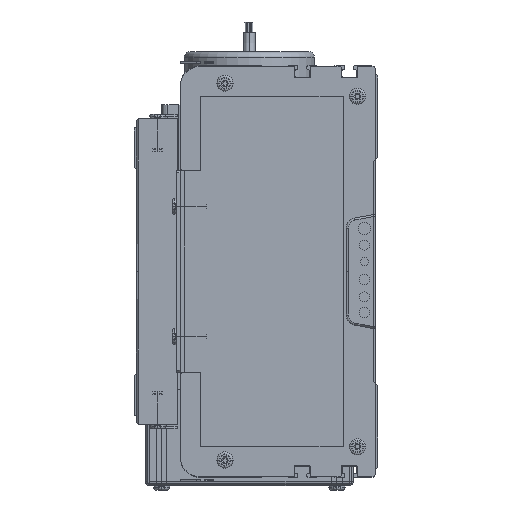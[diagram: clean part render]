
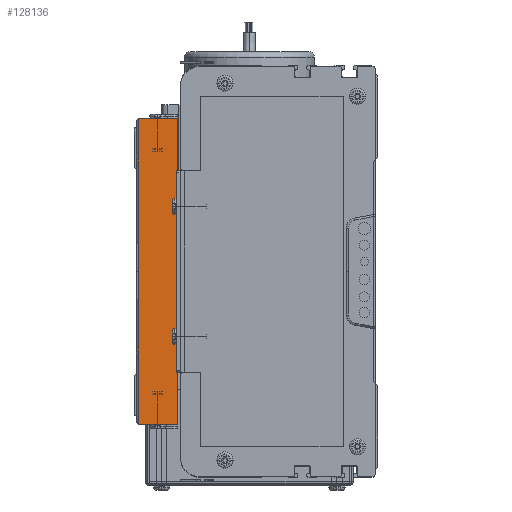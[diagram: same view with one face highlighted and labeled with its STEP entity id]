
A CAD part, left-side view. The second image highlights one B-rep face of the part: STEP entity #128136.
In plain terms, the highlighted planar face has unit normal (-1, 0, 0).
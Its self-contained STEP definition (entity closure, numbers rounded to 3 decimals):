
#127627 = EDGE_CURVE ( 'NONE', #127868, #128277, #130351, .T. ) ;
#127868 = VERTEX_POINT ( 'NONE', #130710 ) ;
#128133 = ORIENTED_EDGE ( 'NONE', *, *, #128453, .T. ) ;
#128136 = ADVANCED_FACE ( 'NONE', ( #130925 ), #130937, .F. ) ;
#128140 = ORIENTED_EDGE ( 'NONE', *, *, #128158, .F. ) ;
#128141 = VERTEX_POINT ( 'NONE', #130917 ) ;
#128158 = EDGE_CURVE ( 'NONE', #128302, #128277, #130996, .T. ) ;
#128277 = VERTEX_POINT ( 'NONE', #131124 ) ;
#128302 = VERTEX_POINT ( 'NONE', #131036 ) ;
#128313 = ORIENTED_EDGE ( 'NONE', *, *, #127627, .T. ) ;
#128315 = ORIENTED_EDGE ( 'NONE', *, *, #128735, .T. ) ;
#128453 = EDGE_CURVE ( 'NONE', #128302, #128141, #142732, .T. ) ;
#128494 = EDGE_LOOP ( 'NONE', ( #128140, #128133, #128722, #128315, #128313 ) ) ;
#128722 = ORIENTED_EDGE ( 'NONE', *, *, #128898, .T. ) ;
#128735 = EDGE_CURVE ( 'NONE', #128737, #127868, #142922, .T. ) ;
#128737 = VERTEX_POINT ( 'NONE', #143003 ) ;
#128898 = EDGE_CURVE ( 'NONE', #128141, #128737, #143135, .T. ) ;
#130345 = DIRECTION ( 'NONE',  ( 0., 0., 1. ) ) ;
#130346 = VECTOR ( 'NONE', #130345, 1000. ) ;
#130349 = CARTESIAN_POINT ( 'NONE',  ( 0., 0., 0. ) ) ;
#130351 = LINE ( 'NONE', #130349, #130346 ) ;
#130710 = CARTESIAN_POINT ( 'NONE',  ( 0., 0., -75. ) ) ;
#130908 = DIRECTION ( 'NONE',  ( 0., 0., -1. ) ) ;
#130910 = DIRECTION ( 'NONE',  ( 1., 0., 0. ) ) ;
#130911 = CARTESIAN_POINT ( 'NONE',  ( 0., 20., 0. ) ) ;
#130917 = CARTESIAN_POINT ( 'NONE',  ( 0., 19., 0. ) ) ;
#130925 = FACE_OUTER_BOUND ( 'NONE', #128494, .T. ) ;
#130926 = AXIS2_PLACEMENT_3D ( 'NONE', #130911, #130910, #130908 ) ;
#130937 = PLANE ( 'NONE',  #130926 ) ;
#130991 = DIRECTION ( 'NONE',  ( 0., -1., 0. ) ) ;
#130993 = VECTOR ( 'NONE', #130991, 1000. ) ;
#130994 = CARTESIAN_POINT ( 'NONE',  ( 0., 20., 75. ) ) ;
#130996 = LINE ( 'NONE', #130994, #130993 ) ;
#131036 = CARTESIAN_POINT ( 'NONE',  ( 0., 19., 75. ) ) ;
#131124 = CARTESIAN_POINT ( 'NONE',  ( 0., 0., 75. ) ) ;
#142718 = DIRECTION ( 'NONE',  ( 0., 0., -1. ) ) ;
#142732 = LINE ( 'NONE', #142749, #142748 ) ;
#142748 = VECTOR ( 'NONE', #142718, 1000. ) ;
#142749 = CARTESIAN_POINT ( 'NONE',  ( 0., 19., 0. ) ) ;
#142911 = CARTESIAN_POINT ( 'NONE',  ( 0., 20., -75. ) ) ;
#142922 = LINE ( 'NONE', #142911, #143001 ) ;
#143000 = DIRECTION ( 'NONE',  ( 0., -1., 0. ) ) ;
#143001 = VECTOR ( 'NONE', #143000, 1000. ) ;
#143003 = CARTESIAN_POINT ( 'NONE',  ( 0., 19., -75. ) ) ;
#143113 = DIRECTION ( 'NONE',  ( 0., 0., -1. ) ) ;
#143114 = VECTOR ( 'NONE', #143113, 1000. ) ;
#143133 = CARTESIAN_POINT ( 'NONE',  ( 0., 19., 0. ) ) ;
#143135 = LINE ( 'NONE', #143133, #143114 ) ;
